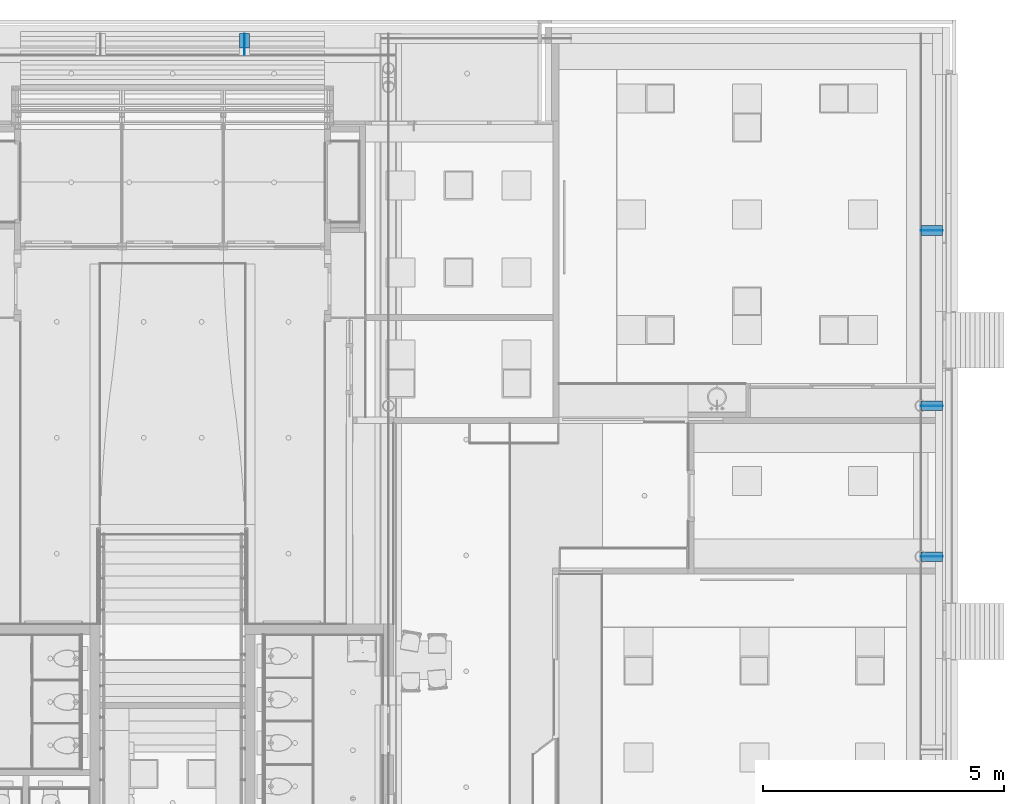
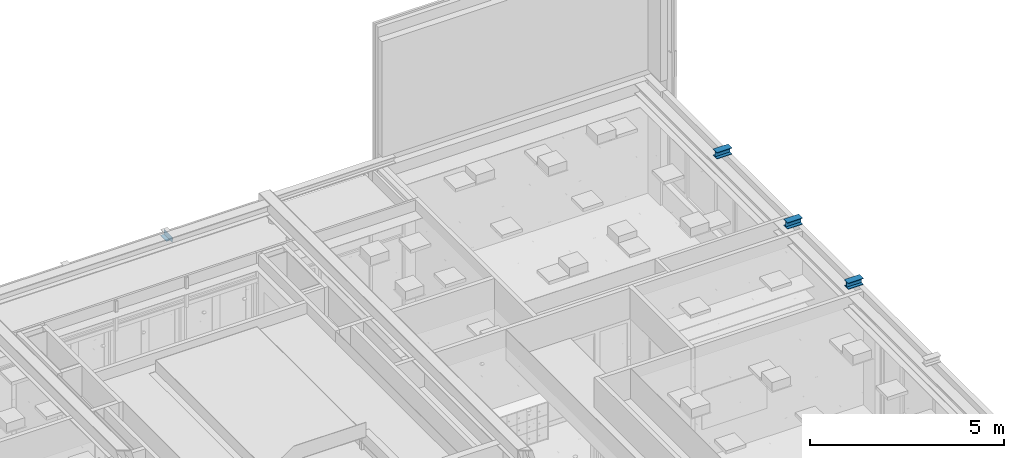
# One storey, part 148 of 347: 11 building element parts, 4 elements without a shape of their own.
"""IFC2X3 building model written with IfcOpenShell, lengths in millimetres."""

from ifc_helpers import new_model, entity, si_unit, converted_unit, derived_unit, money_unit, direction, frame, origin_with_axes, place, context, subcontext, project, spatial, faceted_brep, material, type_object, element, aggregate, save


model = new_model("IFC2X3")

# Units and contexts
model_context = context("Model", 3, precision=0.01, world=origin_with_axes(), true_north=direction((0.0, 1.0)))
plan_context = context("Plan", 3, precision=0.01, world=origin_with_axes(), true_north=direction((0.0, 1.0)))
body_context = subcontext(model_context, "Body", "Model", "MODEL_VIEW")
ifc_project = project(units=[si_unit("LENGTHUNIT", "METRE", prefix="MILLI"), si_unit("AREAUNIT", "SQUARE_METRE"), si_unit("VOLUMEUNIT", "CUBIC_METRE"), converted_unit("PLANEANGLEUNIT", "DEGREE", entity("IfcPlaneAngleMeasure", 0.0174532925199), si_unit("PLANEANGLEUNIT", "RADIAN"), dimensions=[0, 0, 0, 0, 0, 0, 0]), money_unit("EUR"), converted_unit("TIMEUNIT", "Year", entity("IfcTimeMeasure", 31556926.0), si_unit("TIMEUNIT", "SECOND"), dimensions=[0, 0, 1, 0, 0, 0, 0]), si_unit("MASSUNIT", "GRAM", prefix="KILO"), si_unit("THERMODYNAMICTEMPERATUREUNIT", "DEGREE_CELSIUS"), si_unit("LUMINOUSINTENSITYUNIT", "LUMEN"), si_unit("ENERGYUNIT", "JOULE", prefix="MEGA"), derived_unit("THERMALCONDUCTANCEUNIT", [(si_unit("POWERUNIT", "WATT"), 1), (si_unit("LENGTHUNIT", "METRE"), -1), (si_unit("THERMODYNAMICTEMPERATUREUNIT", "KELVIN"), -1)]), derived_unit("SPECIFICHEATCAPACITYUNIT", [(si_unit("ENERGYUNIT", "JOULE"), 1), (si_unit("MASSUNIT", "GRAM", prefix="KILO"), -1), (si_unit("THERMODYNAMICTEMPERATUREUNIT", "KELVIN"), -1)]), derived_unit("MASSDENSITYUNIT", [(si_unit("MASSUNIT", "GRAM", prefix="KILO"), 1), (si_unit("VOLUMEUNIT", "CUBIC_METRE"), -1)])], contexts=[model_context, plan_context])

# Site, building, storey
site_placement = place(None, origin_with_axes())
site = spatial("IfcSite", under=ifc_project, at=site_placement, Name="Site", CompositionType="ELEMENT")
building_placement = place(site_placement, origin_with_axes())
building = spatial("IfcBuilding", under=site, at=building_placement, Name="Naam gebouw", CompositionType="ELEMENT")
storey_placement = place(building_placement, origin_with_axes())
storey = spatial("IfcBuildingStorey", under=building, at=storey_placement, Name="begane grond", CompositionType="ELEMENT", Elevation=0.0)

# Beam, building element parts
beam_type = type_object("IfcBeamType", Name="28 HEB200 200 x 200", PredefinedType="BEAM")
beam_1_placement = place(storey_placement, frame((55575.0, 39325.0, 3560.0), z_axis=(0.0, 0.0, 1.0), x_axis=(0.0, -1.0, 0.0)))
beam_1 = element("IfcBeam", 1, at=beam_1_placement, inside=storey, type_object=beam_type, Name="28_Balk-x", ObjectType="BEAM")
ifc_material = material(Name="Metaal - Staal C")
building_element_part_1_placement = place(beam_1_placement, origin_with_axes())
building_element_part_1 = element("IfcBuildingElementPart", 2, at=building_element_part_1_placement, material=ifc_material, Name="Metaal - Staal C", context=body_context, shape_type="Brep", body=[
    faceted_brep([(-100.0, 449.999999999, 185.0), (-4.5, 449.999999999, 185.0), (-4.5, 0.0, 185.0), (-100.0, 0.0, 185.0), (-100.0, 449.999999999, 200.0), (100.0, 449.999999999, 200.0), (100.0, 449.999999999, 185.0), (4.5, 449.999999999, 185.0), (4.5, 0.0, 185.0), (100.0, 0.0, 185.0), (100.0, 0.0, 200.0), (-100.0, 0.0, 200.0)], [[[0, 1, 2, 3]], [[0, 4, 5, 6, 7, 1]], [[1, 7, 8, 2]], [[3, 2, 8, 9, 10, 11]], [[4, 0, 3, 11]], [[5, 4, 11, 10]], [[6, 5, 10, 9]], [[7, 6, 9, 8]]]),
])
building_element_part_2_placement = place(beam_1_placement, origin_with_axes())
building_element_part_2 = element("IfcBuildingElementPart", 3, at=building_element_part_2_placement, material=ifc_material, Name="Metaal - Staal C", context=body_context, shape_type="Brep", body=[
    faceted_brep([(-100.0, 449.999999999, 15.0), (-100.0, 449.999999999, 0.0), (-100.0, 0.0, 0.0), (-100.0, 0.0, 15.0), (-4.5, 449.999999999, 15.0), (4.5, 449.999999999, 15.0), (100.0, 449.999999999, 15.0), (100.0, 449.999999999, 0.0), (100.0, 0.0, 0.0), (100.0, 0.0, 15.0), (4.5, 0.0, 15.0), (-4.5, 0.0, 15.0)], [[[0, 1, 2, 3]], [[0, 4, 5, 6, 7, 1]], [[1, 7, 8, 2]], [[3, 2, 8, 9, 10, 11]], [[4, 0, 3, 11]], [[5, 4, 11, 10]], [[6, 5, 10, 9]], [[7, 6, 9, 8]]]),
])
building_element_part_3_placement = place(beam_1_placement, origin_with_axes())
building_element_part_3 = element("IfcBuildingElementPart", 4, at=building_element_part_3_placement, material=ifc_material, Name="Metaal - Staal C", context=body_context, shape_type="Brep", body=[
    faceted_brep([(-4.5, 449.999999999, 15.0), (4.5, 449.999999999, 15.0), (4.5, 0.0, 15.0), (-4.5, 0.0, 15.0), (-4.5, 449.999999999, 185.0), (4.5, 449.999999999, 185.0), (4.5, 0.0, 185.0), (-4.5, 0.0, 185.0)], [[[0, 1, 2, 3]], [[0, 4, 5, 1]], [[1, 5, 6, 2]], [[3, 2, 6, 7]], [[4, 0, 3, 7]], [[5, 4, 7, 6]]]),
])
aggregate(beam_1, [building_element_part_1, building_element_part_2, building_element_part_3])

beam_2_placement = place(storey_placement, frame((55575.0, 36200.0, 3560.0), z_axis=(0.0, 0.0, 1.0), x_axis=(0.0, -1.0, 0.0)))
beam_2 = element("IfcBeam", 5, at=beam_2_placement, inside=storey, type_object=beam_type, Name="28_Balk-x", ObjectType="BEAM")
building_element_part_4_placement = place(beam_2_placement, origin_with_axes())
building_element_part_4 = element("IfcBuildingElementPart", 6, at=building_element_part_4_placement, material=ifc_material, Name="Metaal - Staal C", context=body_context, shape_type="Brep", body=[
    faceted_brep([(-100.0, 449.999999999, 185.0), (-4.5, 449.999999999, 185.0), (-4.5, 0.0, 185.0), (-100.0, 0.0, 185.0), (-100.0, 449.999999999, 200.0), (100.0, 449.999999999, 200.0), (100.0, 449.999999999, 185.0), (4.5, 449.999999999, 185.0), (4.5, 0.0, 185.0), (100.0, 0.0, 185.0), (100.0, 0.0, 200.0), (-100.0, 0.0, 200.0)], [[[0, 1, 2, 3]], [[0, 4, 5, 6, 7, 1]], [[1, 7, 8, 2]], [[3, 2, 8, 9, 10, 11]], [[4, 0, 3, 11]], [[5, 4, 11, 10]], [[6, 5, 10, 9]], [[7, 6, 9, 8]]]),
])
building_element_part_5_placement = place(beam_2_placement, origin_with_axes())
building_element_part_5 = element("IfcBuildingElementPart", 7, at=building_element_part_5_placement, material=ifc_material, Name="Metaal - Staal C", context=body_context, shape_type="Brep", body=[
    faceted_brep([(-100.0, 449.999999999, 15.0), (-100.0, 449.999999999, 0.0), (-100.0, 0.0, 0.0), (-100.0, 0.0, 15.0), (-4.5, 449.999999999, 15.0), (4.5, 449.999999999, 15.0), (100.0, 449.999999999, 15.0), (100.0, 449.999999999, 0.0), (100.0, 0.0, 0.0), (100.0, 0.0, 15.0), (4.5, 0.0, 15.0), (-4.5, 0.0, 15.0)], [[[0, 1, 2, 3]], [[0, 4, 5, 6, 7, 1]], [[1, 7, 8, 2]], [[3, 2, 8, 9, 10, 11]], [[4, 0, 3, 11]], [[5, 4, 11, 10]], [[6, 5, 10, 9]], [[7, 6, 9, 8]]]),
])
building_element_part_6_placement = place(beam_2_placement, origin_with_axes())
building_element_part_6 = element("IfcBuildingElementPart", 8, at=building_element_part_6_placement, material=ifc_material, Name="Metaal - Staal C", context=body_context, shape_type="Brep", body=[
    faceted_brep([(-4.5, 449.999999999, 15.0), (4.5, 449.999999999, 15.0), (4.5, 0.0, 15.0), (-4.5, 0.0, 15.0), (-4.5, 449.999999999, 185.0), (4.5, 449.999999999, 185.0), (4.5, 0.0, 185.0), (-4.5, 0.0, 185.0)], [[[0, 1, 2, 3]], [[0, 4, 5, 1]], [[1, 5, 6, 2]], [[3, 2, 6, 7]], [[4, 0, 3, 7]], [[5, 4, 7, 6]]]),
])
aggregate(beam_2, [building_element_part_4, building_element_part_5, building_element_part_6])

beam_3_placement = place(storey_placement, frame((55575.0, 42956.0, 3560.0), z_axis=(0.0, 0.0, 1.0), x_axis=(0.0, -1.0, 0.0)))
beam_3 = element("IfcBeam", 9, at=beam_3_placement, inside=storey, type_object=beam_type, Name="28_Balk-x", ObjectType="BEAM")
building_element_part_7_placement = place(beam_3_placement, origin_with_axes())
building_element_part_7 = element("IfcBuildingElementPart", 10, at=building_element_part_7_placement, material=ifc_material, Name="Metaal - Staal C", context=body_context, shape_type="Brep", body=[
    faceted_brep([(-100.0, 449.999999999, 185.0), (-4.5, 449.999999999, 185.0), (-4.5, 0.0, 185.0), (-100.0, 0.0, 185.0), (-100.0, 449.999999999, 200.0), (100.0, 449.999999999, 200.0), (100.0, 449.999999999, 185.0), (4.5, 449.999999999, 185.0), (4.5, 0.0, 185.0), (100.0, 0.0, 185.0), (100.0, 0.0, 200.0), (-100.0, 0.0, 200.0)], [[[0, 1, 2, 3]], [[0, 4, 5, 6, 7, 1]], [[1, 7, 8, 2]], [[3, 2, 8, 9, 10, 11]], [[4, 0, 3, 11]], [[5, 4, 11, 10]], [[6, 5, 10, 9]], [[7, 6, 9, 8]]]),
])
building_element_part_8_placement = place(beam_3_placement, origin_with_axes())
building_element_part_8 = element("IfcBuildingElementPart", 11, at=building_element_part_8_placement, material=ifc_material, Name="Metaal - Staal C", context=body_context, shape_type="Brep", body=[
    faceted_brep([(-100.0, 449.999999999, 15.0), (-100.0, 449.999999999, 0.0), (-100.0, 0.0, 0.0), (-100.0, 0.0, 15.0), (-4.5, 449.999999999, 15.0), (4.5, 449.999999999, 15.0), (100.0, 449.999999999, 15.0), (100.0, 449.999999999, 0.0), (100.0, 0.0, 0.0), (100.0, 0.0, 15.0), (4.5, 0.0, 15.0), (-4.5, 0.0, 15.0)], [[[0, 1, 2, 3]], [[0, 4, 5, 6, 7, 1]], [[1, 7, 8, 2]], [[3, 2, 8, 9, 10, 11]], [[4, 0, 3, 11]], [[5, 4, 11, 10]], [[6, 5, 10, 9]], [[7, 6, 9, 8]]]),
])
building_element_part_9_placement = place(beam_3_placement, origin_with_axes())
building_element_part_9 = element("IfcBuildingElementPart", 12, at=building_element_part_9_placement, material=ifc_material, Name="Metaal - Staal C", context=body_context, shape_type="Brep", body=[
    faceted_brep([(-4.5, 449.999999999, 15.0), (4.5, 449.999999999, 15.0), (4.5, 0.0, 15.0), (-4.5, 0.0, 15.0), (-4.5, 449.999999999, 185.0), (4.5, 449.999999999, 185.0), (4.5, 0.0, 185.0), (-4.5, 0.0, 185.0)], [[[0, 1, 2, 3]], [[0, 4, 5, 1]], [[1, 5, 6, 2]], [[3, 2, 6, 7]], [[4, 0, 3, 7]], [[5, 4, 7, 6]]]),
])
aggregate(beam_3, [building_element_part_7, building_element_part_8, building_element_part_9])

beam_4_placement = place(storey_placement, frame((41565.0, 46587.0, 3560.0), z_axis=(0.0, 0.0, 1.0), x_axis=(1.0, 0.0, 0.0)))
beam_4 = element("IfcBeam", 13, at=beam_4_placement, inside=storey, type_object=beam_type, Name="28_Balk-x", ObjectType="BEAM")
building_element_part_10_placement = place(beam_4_placement, origin_with_axes())
building_element_part_10 = element("IfcBuildingElementPart", 14, at=building_element_part_10_placement, material=ifc_material, Name="Metaal - Staal C", context=body_context, shape_type="Brep", body=[
    faceted_brep([(4.5, 150.0, 15.0), (100.0, 150.0, 15.0), (100.0, 450.0, 15.0), (4.5, 450.0, 15.0), (100.0, 150.0, 0.0), (-4.5, 150.0, 15.0), (-100.0, 150.0, 15.0), (-100.0, 150.0, 0.0), (100.0, 450.0, 0.0), (-100.0, 450.0, 0.0), (-100.0, 450.0, 15.0), (-4.5, 450.0, 15.0)], [[[0, 1, 2, 3]], [[4, 1, 0, 5, 6, 7]], [[1, 4, 8, 2]], [[8, 9, 10, 11, 3, 2]], [[5, 0, 3, 11]], [[6, 5, 11, 10]], [[7, 6, 10, 9]], [[4, 7, 9, 8]]]),
])
building_element_part_11_placement = place(beam_4_placement, origin_with_axes())
building_element_part_11 = element("IfcBuildingElementPart", 15, at=building_element_part_11_placement, material=ifc_material, Name="Metaal - Staal C", context=body_context, shape_type="Brep", body=[
    faceted_brep([(4.5, 5.5, 185.0), (4.5, 5.5, 19.0), (4.5, 150.0, 19.0), (4.5, 150.0, 15.0), (4.5, 450.0, 15.0), (4.5, 450.0, 185.0), (-4.5, 5.49999999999, 185.0), (-4.5, 5.49999999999, 19.0), (-4.5, 150.0, 19.0), (-4.5, 150.0, 15.0), (-4.5, 450.0, 15.0), (-4.5, 450.0, 185.0)], [[[0, 1, 2, 3, 4, 5]], [[1, 0, 6, 7]], [[2, 1, 7, 8]], [[3, 2, 8, 9]], [[3, 9, 10, 4]], [[5, 4, 10, 11]], [[6, 0, 5, 11]], [[7, 6, 11, 10, 9, 8]]]),
])
aggregate(beam_4, [building_element_part_10, building_element_part_11])

save(model, "model.ifc")
